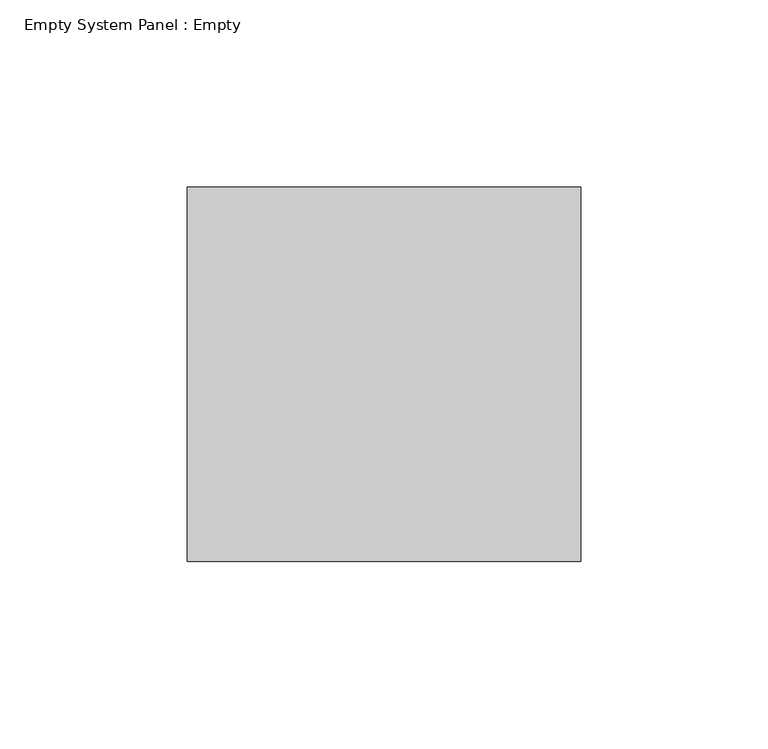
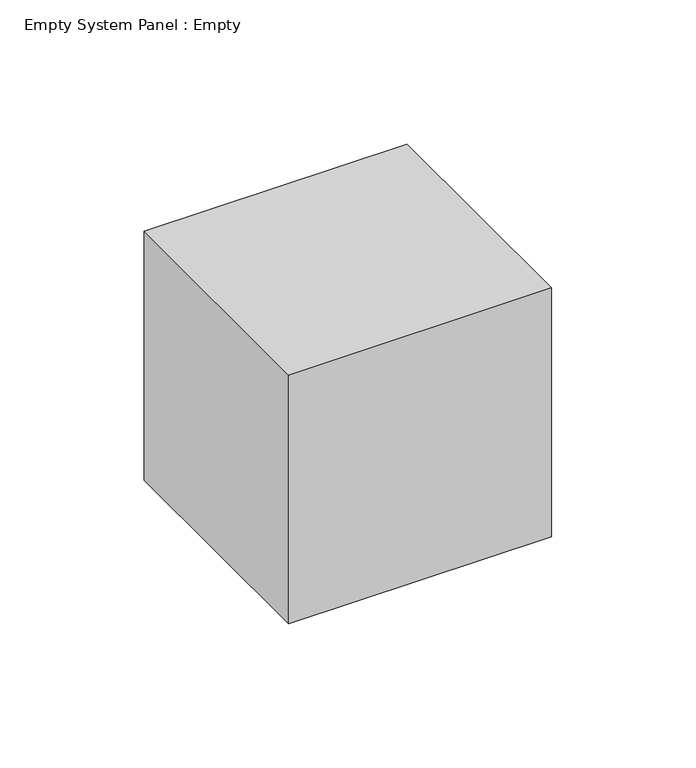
"""IFC4 building model written with IfcOpenShell, lengths in millimetres: plate geometry, Empty System Panel : Empty."""

from ifc_helpers import new_model, si_unit, origin, origin_with_axes, place, context, project, spatial, polyline, outline, extrude, source, transform, mapped, element, save


def empty_system_panel_empty_3353a095(model_context):
    return source(origin(), model_context, "Body", "SweptSolid", [
        extrude(outline(polyline([(52.4999998, 50.0), (-52.4999998, 50.0), (-52.4999998, 150.0), (52.4999998, 150.0), (52.4999998, 50.0)])), origin_with_axes(), (0.0, 0.0, 1.0), 105.0),
    ])


if __name__ == "__main__":
    model = new_model("IFC4")
    model_context = context("Model", 3, world=origin())
    ifc_project = project(units=[si_unit("LENGTHUNIT", "METRE", prefix="MILLI")], contexts=[model_context])
    site = spatial("IfcSite", under=ifc_project)
    building = spatial("IfcBuilding", under=site)
    placement = place(None, origin())
    empty_system_panel_empty_shape = empty_system_panel_empty_3353a095(model_context)
    element("IfcPlate", 1, ObjectType="Empty System Panel : Empty", at=placement, inside=building, context=model_context, shape_type="MappedRepresentation", body=[
        mapped(empty_system_panel_empty_shape, transform((0.0, 0.0, 0.0), x_axis=(1.0, 0.0, 0.0), y_axis=(0.0, 1.0, 0.0), z_axis=(0.0, 0.0, 1.0))),
    ])
    save(model, "model.ifc")
